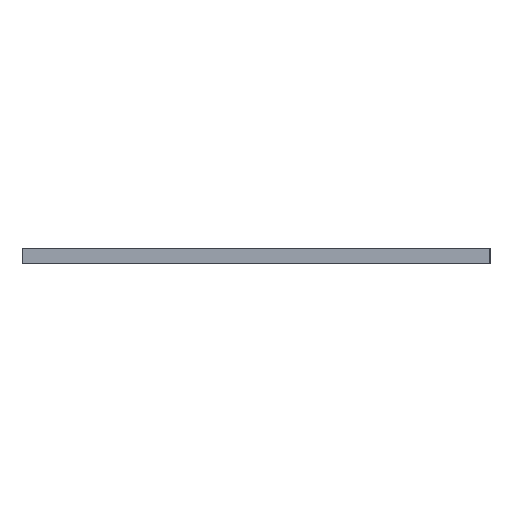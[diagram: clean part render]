
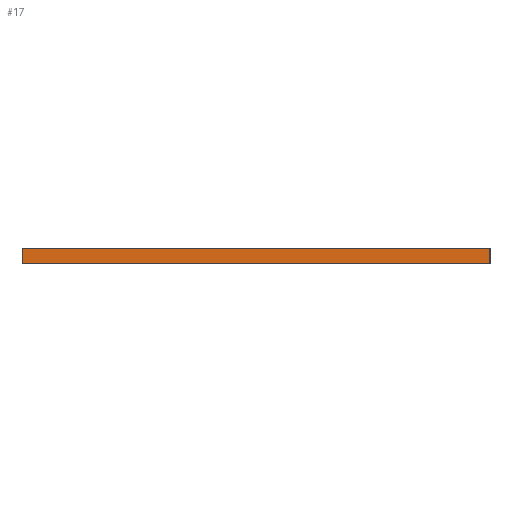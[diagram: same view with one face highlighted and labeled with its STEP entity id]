
A CAD part, left-side view. The second image highlights one B-rep face of the part: STEP entity #17.
In plain terms, the highlighted planar face has unit normal (-1, 0, 0).
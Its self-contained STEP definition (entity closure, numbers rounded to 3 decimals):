
#17 = ADVANCED_FACE('',(#18),#32,.F.);
#18 = FACE_BOUND('',#19,.F.);
#19 = EDGE_LOOP('',(#20,#55,#83,#111));
#20 = ORIENTED_EDGE('',*,*,#21,.F.);
#21 = EDGE_CURVE('',#22,#24,#26,.T.);
#22 = VERTEX_POINT('',#23);
#23 = CARTESIAN_POINT('',(-23.,-24.,5.));
#24 = VERTEX_POINT('',#25);
#25 = CARTESIAN_POINT('',(-23.,-24.,6.6));
#26 = SURFACE_CURVE('',#27,(#31,#43),.PCURVE_S1.);
#27 = LINE('',#28,#29);
#28 = CARTESIAN_POINT('',(-23.,-24.,5.));
#29 = VECTOR('',#30,1.);
#30 = DIRECTION('',(0.,0.,1.));
#31 = PCURVE('',#32,#37);
#32 = PLANE('',#33);
#33 = AXIS2_PLACEMENT_3D('',#34,#35,#36);
#34 = CARTESIAN_POINT('',(-23.,-24.,5.));
#35 = DIRECTION('',(1.,0.,-0.));
#36 = DIRECTION('',(0.,0.,1.));
#37 = DEFINITIONAL_REPRESENTATION('',(#38),#42);
#38 = LINE('',#39,#40);
#39 = CARTESIAN_POINT('',(0.,0.));
#40 = VECTOR('',#41,1.);
#41 = DIRECTION('',(1.,0.));
#42 = ( GEOMETRIC_REPRESENTATION_CONTEXT(2) 
PARAMETRIC_REPRESENTATION_CONTEXT() REPRESENTATION_CONTEXT('2D SPACE',''
  ) );
#43 = PCURVE('',#44,#49);
#44 = PLANE('',#45);
#45 = AXIS2_PLACEMENT_3D('',#46,#47,#48);
#46 = CARTESIAN_POINT('',(-23.,-24.,5.));
#47 = DIRECTION('',(-0.,1.,0.));
#48 = DIRECTION('',(0.,0.,1.));
#49 = DEFINITIONAL_REPRESENTATION('',(#50),#54);
#50 = LINE('',#51,#52);
#51 = CARTESIAN_POINT('',(0.,0.));
#52 = VECTOR('',#53,1.);
#53 = DIRECTION('',(1.,0.));
#54 = ( GEOMETRIC_REPRESENTATION_CONTEXT(2) 
PARAMETRIC_REPRESENTATION_CONTEXT() REPRESENTATION_CONTEXT('2D SPACE',''
  ) );
#55 = ORIENTED_EDGE('',*,*,#56,.T.);
#56 = EDGE_CURVE('',#22,#57,#59,.T.);
#57 = VERTEX_POINT('',#58);
#58 = CARTESIAN_POINT('',(-23.,24.,5.));
#59 = SURFACE_CURVE('',#60,(#64,#71),.PCURVE_S1.);
#60 = LINE('',#61,#62);
#61 = CARTESIAN_POINT('',(-23.,-24.,5.));
#62 = VECTOR('',#63,1.);
#63 = DIRECTION('',(-0.,1.,0.));
#64 = PCURVE('',#32,#65);
#65 = DEFINITIONAL_REPRESENTATION('',(#66),#70);
#66 = LINE('',#67,#68);
#67 = CARTESIAN_POINT('',(0.,0.));
#68 = VECTOR('',#69,1.);
#69 = DIRECTION('',(0.,-1.));
#70 = ( GEOMETRIC_REPRESENTATION_CONTEXT(2) 
PARAMETRIC_REPRESENTATION_CONTEXT() REPRESENTATION_CONTEXT('2D SPACE',''
  ) );
#71 = PCURVE('',#72,#77);
#72 = PLANE('',#73);
#73 = AXIS2_PLACEMENT_3D('',#74,#75,#76);
#74 = CARTESIAN_POINT('',(-23.,-24.,5.));
#75 = DIRECTION('',(0.,0.,1.));
#76 = DIRECTION('',(1.,0.,-0.));
#77 = DEFINITIONAL_REPRESENTATION('',(#78),#82);
#78 = LINE('',#79,#80);
#79 = CARTESIAN_POINT('',(0.,0.));
#80 = VECTOR('',#81,1.);
#81 = DIRECTION('',(0.,1.));
#82 = ( GEOMETRIC_REPRESENTATION_CONTEXT(2) 
PARAMETRIC_REPRESENTATION_CONTEXT() REPRESENTATION_CONTEXT('2D SPACE',''
  ) );
#83 = ORIENTED_EDGE('',*,*,#84,.T.);
#84 = EDGE_CURVE('',#57,#85,#87,.T.);
#85 = VERTEX_POINT('',#86);
#86 = CARTESIAN_POINT('',(-23.,24.,6.6));
#87 = SURFACE_CURVE('',#88,(#92,#99),.PCURVE_S1.);
#88 = LINE('',#89,#90);
#89 = CARTESIAN_POINT('',(-23.,24.,5.));
#90 = VECTOR('',#91,1.);
#91 = DIRECTION('',(0.,0.,1.));
#92 = PCURVE('',#32,#93);
#93 = DEFINITIONAL_REPRESENTATION('',(#94),#98);
#94 = LINE('',#95,#96);
#95 = CARTESIAN_POINT('',(0.,-48.));
#96 = VECTOR('',#97,1.);
#97 = DIRECTION('',(1.,0.));
#98 = ( GEOMETRIC_REPRESENTATION_CONTEXT(2) 
PARAMETRIC_REPRESENTATION_CONTEXT() REPRESENTATION_CONTEXT('2D SPACE',''
  ) );
#99 = PCURVE('',#100,#105);
#100 = PLANE('',#101);
#101 = AXIS2_PLACEMENT_3D('',#102,#103,#104);
#102 = CARTESIAN_POINT('',(-23.,24.,5.));
#103 = DIRECTION('',(-0.,1.,0.));
#104 = DIRECTION('',(0.,0.,1.));
#105 = DEFINITIONAL_REPRESENTATION('',(#106),#110);
#106 = LINE('',#107,#108);
#107 = CARTESIAN_POINT('',(0.,0.));
#108 = VECTOR('',#109,1.);
#109 = DIRECTION('',(1.,0.));
#110 = ( GEOMETRIC_REPRESENTATION_CONTEXT(2) 
PARAMETRIC_REPRESENTATION_CONTEXT() REPRESENTATION_CONTEXT('2D SPACE',''
  ) );
#111 = ORIENTED_EDGE('',*,*,#112,.F.);
#112 = EDGE_CURVE('',#24,#85,#113,.T.);
#113 = SURFACE_CURVE('',#114,(#118,#125),.PCURVE_S1.);
#114 = LINE('',#115,#116);
#115 = CARTESIAN_POINT('',(-23.,-24.,6.6));
#116 = VECTOR('',#117,1.);
#117 = DIRECTION('',(-0.,1.,0.));
#118 = PCURVE('',#32,#119);
#119 = DEFINITIONAL_REPRESENTATION('',(#120),#124);
#120 = LINE('',#121,#122);
#121 = CARTESIAN_POINT('',(1.6,0.));
#122 = VECTOR('',#123,1.);
#123 = DIRECTION('',(0.,-1.));
#124 = ( GEOMETRIC_REPRESENTATION_CONTEXT(2) 
PARAMETRIC_REPRESENTATION_CONTEXT() REPRESENTATION_CONTEXT('2D SPACE',''
  ) );
#125 = PCURVE('',#126,#131);
#126 = PLANE('',#127);
#127 = AXIS2_PLACEMENT_3D('',#128,#129,#130);
#128 = CARTESIAN_POINT('',(-23.,-24.,6.6));
#129 = DIRECTION('',(0.,0.,1.));
#130 = DIRECTION('',(1.,0.,-0.));
#131 = DEFINITIONAL_REPRESENTATION('',(#132),#136);
#132 = LINE('',#133,#134);
#133 = CARTESIAN_POINT('',(0.,0.));
#134 = VECTOR('',#135,1.);
#135 = DIRECTION('',(0.,1.));
#136 = ( GEOMETRIC_REPRESENTATION_CONTEXT(2) 
PARAMETRIC_REPRESENTATION_CONTEXT() REPRESENTATION_CONTEXT('2D SPACE',''
  ) );
